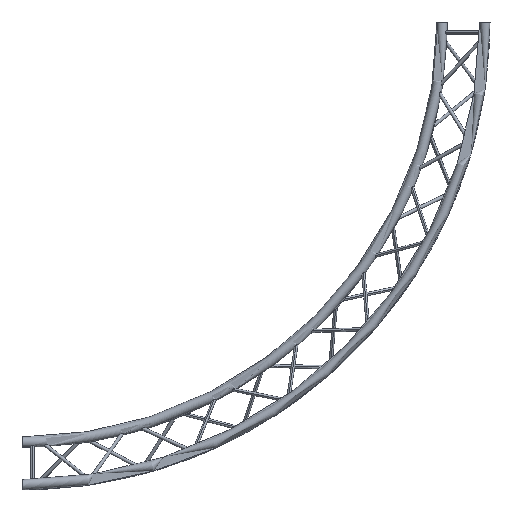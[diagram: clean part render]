
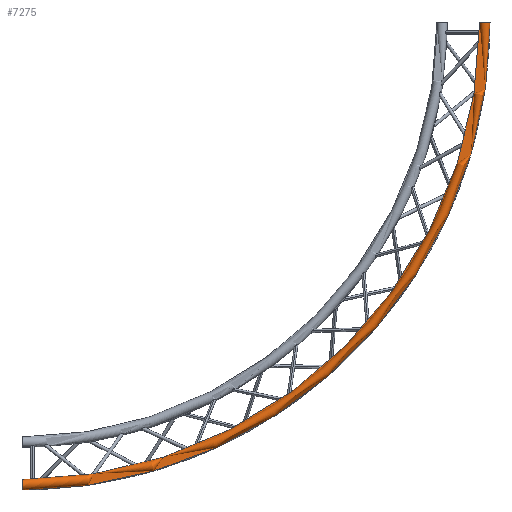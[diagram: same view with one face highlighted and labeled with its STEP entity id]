
A CAD part, front view. The second image highlights one B-rep face of the part: STEP entity #7275.
In plain terms, the highlighted toroidal (fillet/blend) face has major radius 2225 mm and minor radius 25 mm.
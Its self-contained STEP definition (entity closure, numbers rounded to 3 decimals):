
#10 = EDGE_CURVE ( 'NONE', #18, #12, #7836, .T. ) ;
#11 = ORIENTED_EDGE ( 'NONE', *, *, #10, .F. ) ;
#12 = VERTEX_POINT ( 'NONE', #7827 ) ;
#13 = EDGE_CURVE ( 'NONE', #19, #15, #7901, .T. ) ;
#14 = ORIENTED_EDGE ( 'NONE', *, *, #16, .F. ) ;
#15 = VERTEX_POINT ( 'NONE', #7897 ) ;
#16 = EDGE_CURVE ( 'NONE', #12, #15, #7896, .T. ) ;
#17 = ORIENTED_EDGE ( 'NONE', *, *, #13, .T. ) ;
#18 = VERTEX_POINT ( 'NONE', #7890 ) ;
#19 = VERTEX_POINT ( 'NONE', #7889 ) ;
#20 = EDGE_CURVE ( 'NONE', #18, #19, #7887, .T. ) ;
#4201 = DIRECTION ( 'NONE',  ( 0., 0., -1. ) ) ;
#4202 = DIRECTION ( 'NONE',  ( 0., -1., 0. ) ) ;
#4203 = CARTESIAN_POINT ( 'NONE',  ( 0., -118.5, 0. ) ) ;
#4204 = AXIS2_PLACEMENT_3D ( 'NONE', #4203, #4202, #4201 ) ;
#4205 = TOROIDAL_SURFACE ( 'NONE', #4204, 2225., 25. ) ;
#4206 = FACE_OUTER_BOUND ( 'NONE', #7270, .T. ) ;
#7269 = ORIENTED_EDGE ( 'NONE', *, *, #20, .T. ) ;
#7270 = EDGE_LOOP ( 'NONE', ( #7269, #17, #14, #11 ) ) ;
#7275 = ADVANCED_FACE ( 'NONE', ( #4206 ), #4205, .T. ) ;
#7826 = CARTESIAN_POINT ( 'NONE',  ( 0., -118.5, 0. ) ) ;
#7827 = CARTESIAN_POINT ( 'NONE',  ( 2200., -118.5, 0. ) ) ;
#7828 = DIRECTION ( 'NONE',  ( 0., 0., -1. ) ) ;
#7829 = DIRECTION ( 'NONE',  ( 0., -1., 0. ) ) ;
#7830 = CARTESIAN_POINT ( 'NONE',  ( 0., -118.5, 0. ) ) ;
#7831 = AXIS2_PLACEMENT_3D ( 'NONE', #7830, #7829, #7828 ) ;
#7836 = CIRCLE ( 'NONE', #7831, 2200. ) ;
#7883 = DIRECTION ( 'NONE',  ( 0., 0., -1. ) ) ;
#7884 = DIRECTION ( 'NONE',  ( 1., 0., 0. ) ) ;
#7885 = CARTESIAN_POINT ( 'NONE',  ( 0., -118.5, -2225. ) ) ;
#7886 = AXIS2_PLACEMENT_3D ( 'NONE', #7885, #7884, #7883 ) ;
#7887 = CIRCLE ( 'NONE', #7886, 25. ) ;
#7889 = CARTESIAN_POINT ( 'NONE',  ( 0., -118.5, -2250. ) ) ;
#7890 = CARTESIAN_POINT ( 'NONE',  ( 0., -118.5, -2200. ) ) ;
#7891 = DIRECTION ( 'NONE',  ( 1., 0., 0. ) ) ;
#7892 = DIRECTION ( 'NONE',  ( 0., 0., 1. ) ) ;
#7893 = CARTESIAN_POINT ( 'NONE',  ( 2225., -118.5, 0. ) ) ;
#7895 = AXIS2_PLACEMENT_3D ( 'NONE', #7893, #7892, #7891 ) ;
#7896 = CIRCLE ( 'NONE', #7895, 25. ) ;
#7897 = CARTESIAN_POINT ( 'NONE',  ( 2250., -118.5, 0. ) ) ;
#7898 = DIRECTION ( 'NONE',  ( 0., 0., -1. ) ) ;
#7899 = DIRECTION ( 'NONE',  ( 0., -1., 0. ) ) ;
#7900 = AXIS2_PLACEMENT_3D ( 'NONE', #7826, #7899, #7898 ) ;
#7901 = CIRCLE ( 'NONE', #7900, 2250. ) ;
